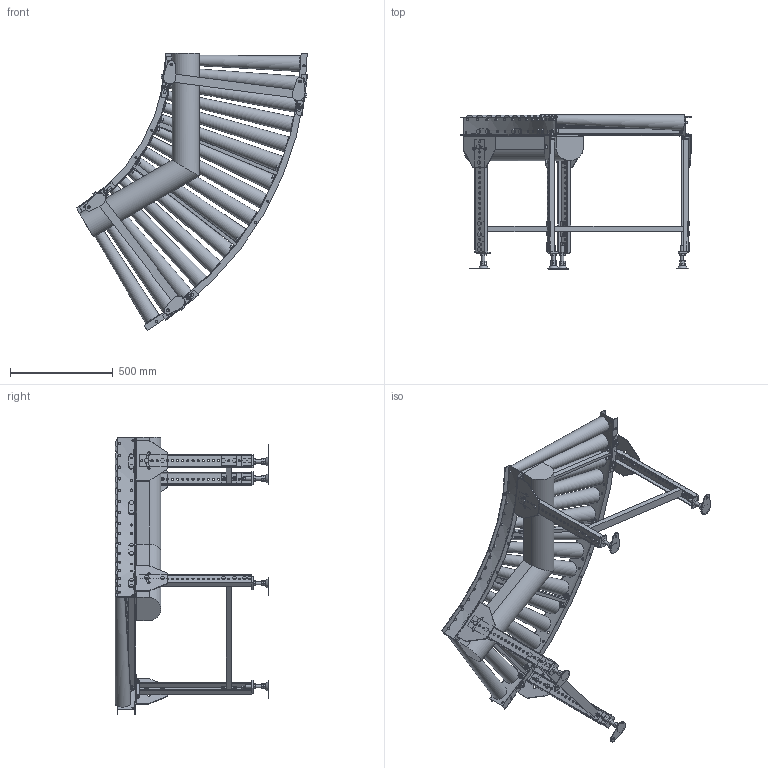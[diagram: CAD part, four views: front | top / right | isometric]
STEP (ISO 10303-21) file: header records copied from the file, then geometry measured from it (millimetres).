
FILE_DESCRIPTION( (''), '2;1');
FILE_NAME ('WEB-MCD-50-630-75-60°-C9.stp','2025-06-26T17:01:37',(''),(''),'spGate 20.6.2 (****-****-****-****)','','');
FILE_SCHEMA (('AUTOMOTIVE_DESIGN'));
Length unit declared in the file: millimetre
Products named in the file (36): WEB-MCD-50-630-75-60_-C9; TEMP_X_T-prt0; TEMP_X_T-prt1; TEMP_X_T-prt2; TEMP_X_T-prt3; TEMP_X_T-prt4; TEMP_X_T-prt5; TEMP_X_T-prt6; TEMP_X_T-prt7; TEMP_X_T-prt8; TEMP_X_T-prt9; TEMP_X_T-prt10; TEMP_X_T-prt11; TEMP_X_T-prt12; TEMP_X_T-prt13; TEMP_X_T-prt14; TEMP_X_T-prt15; TEMP_X_T-prt16; TEMP_X_T-prt17; TEMP_X_T-prt18; TEMP_X_T-prt19; TEMP_X_T-prt20; TEMP_X_T-prt21; TEMP_X_T-prt22; TEMP_X_T-prt23; TEMP_X_T-prt24; TEMP_X_T-prt25; TEMP_X_T-prt26; TEMP_X_T-prt27; TEMP_X_T-prt28; TEMP_X_T-prt29; TEMP_X_T-prt30; TEMP_X_T-prt31; TEMP_X_T-prt32; TEMP_X_T-prt33; TEMP_X_T-prt34
Assembly tree (35 placements, depth 2):
  WEB-MCD-50-630-75-60_-C9
    TEMP_X_T-prt0
    TEMP_X_T-prt1
    TEMP_X_T-prt2
    TEMP_X_T-prt3
    TEMP_X_T-prt4
    TEMP_X_T-prt5
    TEMP_X_T-prt6
    TEMP_X_T-prt7
    TEMP_X_T-prt8
    TEMP_X_T-prt9
    TEMP_X_T-prt10
    TEMP_X_T-prt11
    TEMP_X_T-prt12
    TEMP_X_T-prt13
    TEMP_X_T-prt14
    TEMP_X_T-prt15
    TEMP_X_T-prt16
    TEMP_X_T-prt17
    TEMP_X_T-prt18
    TEMP_X_T-prt19
    TEMP_X_T-prt20
    TEMP_X_T-prt21
    TEMP_X_T-prt22
    TEMP_X_T-prt23
    TEMP_X_T-prt24
    TEMP_X_T-prt25
    TEMP_X_T-prt26
    TEMP_X_T-prt27
    TEMP_X_T-prt28
    TEMP_X_T-prt29
    TEMP_X_T-prt30
    TEMP_X_T-prt31
    TEMP_X_T-prt32
    TEMP_X_T-prt33
    TEMP_X_T-prt34
Bounding box: 1126.07 x 749.97 x 1351 mm (x, y, z)
Volume: 50469431.9 mm3; surface area: 4549597.7 mm2
Topology: 35 solids, 55 shells, 2225 faces, 5396 edges, 3486 vertices
Faces by surface type: plane 1838, cylinder 367, bspline 20
Full cylindrical faces by diameter (mm): 8.5 x4, 10 x60, 10.5 x92, 11 x14, 12 x32, 13 x4, 14 x7, 16 x4, 18.4 x40, 18.5 x8, 21 x28
Entity records: 114155 total; most frequent: CARTESIAN_POINT 15668, DIRECTION 11152, ORIENTED_EDGE 10792, COLOUR_RGB 7656, PRESENTATION_STYLE_ASSIGNMENT 7656, STYLED_ITEM 7656, EDGE_CURVE 5396, DRAUGHTING_PRE_DEFINED_CURVE_FONT 5396
